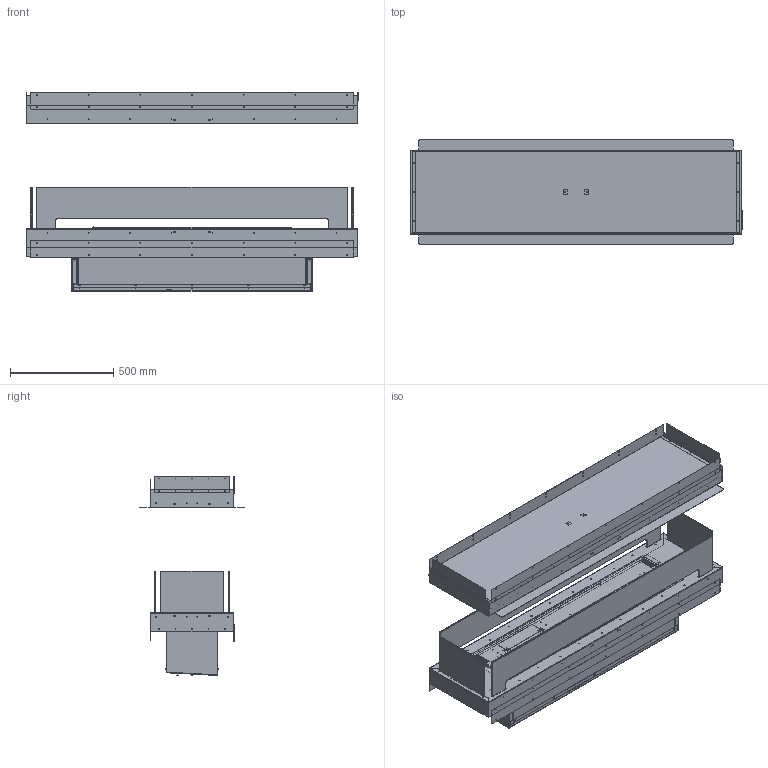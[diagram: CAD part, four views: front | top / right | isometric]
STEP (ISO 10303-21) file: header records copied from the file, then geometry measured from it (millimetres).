
FILE_DESCRIPTION (( 'STEP AP214' ), '1' );
FILE_NAME ('3d_Forma_1500_Island_FLA3.STEP', '2022-05-30T12:01:22', ( '' ), ( '' ), 'SwSTEP 2.0', 'SolidWorks 2019', '' );
FILE_SCHEMA (( 'AUTOMOTIVE_DESIGN' ));
Length unit declared in the file: millimetre
Products named in the file (50): 000060313; 000-051-004; KEYSTONE 5228; hex tapping screws_iso_Tapping Screw ISO 14585 - ST4.2 x 9.5-C-N; 000-042-826_000-042-826-1190; B-000-472; 000060281_000060281_60DSP; 000057747_000057747_60; ok1586; B-003-087_B-003-087-1190; 000056915; 000059955; Nakrêtka wciskana_Sariv S-S M3-3; 000057659_000057659_60; 000100551; 000-049-326_000-049-326-1190; 000057657_000057657_60; 000056880_000056880_60; 000-049-266_000-049-266-1190; 000057000_000057000_60; 000069177; B-003-091_B-003-091-1190; B-003-090; 000-056-474_000-056-474_60; B-000-460; 000059785_000059785-1190 WW; 000111128; 000059948_000059948-1190; ok1585_ok1585-1190; ok1271-08; 000057660; PZ-FLA3XT-0003; 000060280_000060280_60; B-003-094; 024-324-324; 000061618_000061618_60; 000060277_000060277_60; 000064025; 000-056-473_000-056-473_60; B-000-462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
Assembly tree (95 placements, depth 4):
  3d_Forma_1500_Island_FLA3
    000061618_000061618_60
      000-056-480_000-056-480_60
        000-056-473_000-056-473_60
        000-056-474_000-056-474_60
      000057657_000057657_60
      000057659_000057659_60
      000057660
    000056880_000056880_60  x2
    000056915  x2
    000057000_000057000_60  x2
    000057747_000057747_60  x2
    000060281_000060281_60DSP
      000060275_000060275_60DSP
      000060277_000060277_60
      000060280_000060280_60
      000060313  x2
      000069177  x2
    000059785_000059785-1190 WW
      000-049-267_000-049-267-1190
        000-049-266_000-049-266-1190
        Ko³ek gwintowany do zgrzewania_ISO 13918 M4x10  x18
        Nakrêtka wciskana_Sariv S-S M3-3  x3
      000-050-969_000-050-969-1190  x2
      000059948_000059948-1190  x2
      000-049-326_000-049-326-1190
      000-042-826_000-042-826-1190  x2
      000-049-813
        024-324-324
        Ko³ek gwintowany do zgrzewania_ISO 13918 M4x10  x2
      ok1585_ok1585-1190
        B-003-087_B-003-087-1190
        B-003-090  x2
        B-000-460  x4
        B-003-091_B-003-091-1190
        B-003-094  x2
        B-000-462  x4
        B-000-472
        000-051-004
      000059955
      PZ-FLA3XT-0003
      ok1586
      hex tapping screws_iso_Tapping Screw ISO 14585 - ST4.2 x 9.5-C-N  x2
      000059906
      000-046-432  x4
      ok1271-08  x4
      KEYSTONE 5228
      000064025
      000064026
      000100551
    000111128  x2
Bounding box: 1608 x 506 x 964.71 mm (x, y, z)
Volume: 12801589.3 mm3; surface area: 13733546.2 mm2
Topology: 101 solids, 101 shells, 3662 faces, 9532 edges, 6109 vertices
Faces by surface type: cylinder 2015, plane 1394, cone 168, torus 48, bspline 33, sphere 4
Entity records: 98566 total; most frequent: CARTESIAN_POINT 21182, DIRECTION 16448, ORIENTED_EDGE 14924, EDGE_CURVE 7462, AXIS2_PLACEMENT_3D 6226, VERTEX_POINT 4800, LINE 3996, VECTOR 3996
